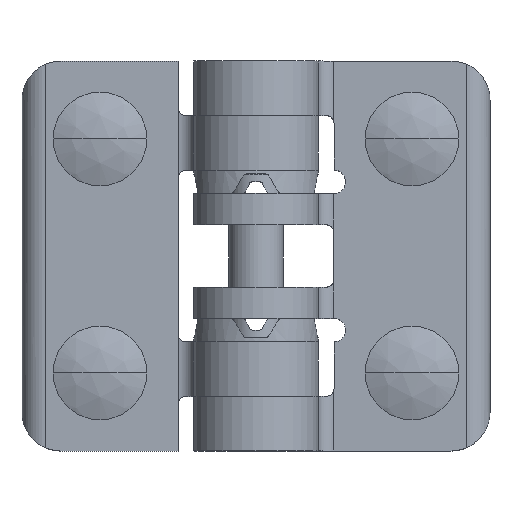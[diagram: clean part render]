
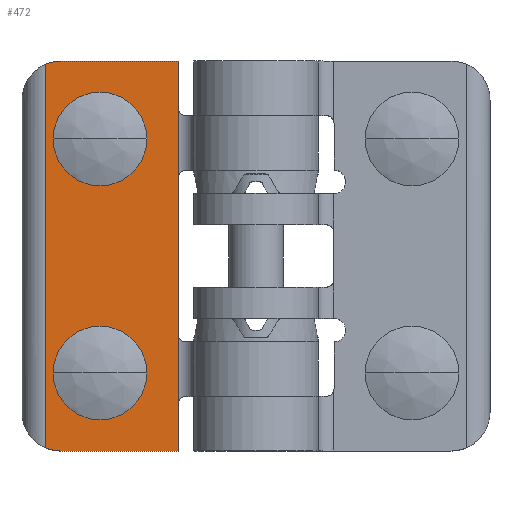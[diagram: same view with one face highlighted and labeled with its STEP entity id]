
A CAD part, top view. The second image highlights one B-rep face of the part: STEP entity #472.
In plain terms, the highlighted planar face has unit normal (0, 0, 1).
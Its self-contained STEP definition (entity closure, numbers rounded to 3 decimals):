
#472=ADVANCED_FACE('',(#787,#788,#789),#790,.T.);
#787=FACE_BOUND('',#1429,.T.);
#788=FACE_OUTER_BOUND('',#1430,.T.);
#789=FACE_BOUND('',#1431,.T.);
#790=PLANE('',#1432);
#1429=EDGE_LOOP('',(#2135,#2136));
#1430=EDGE_LOOP('',(#2137,#2138,#2139,#2140,#2141,#2142,#2143,#2144,#2145,#2146,#2147,#2148,#2149,#2150));
#1431=EDGE_LOOP('',(#2151,#2152));
#1432=AXIS2_PLACEMENT_3D('',#2153,#2154,#2155);
#2135=ORIENTED_EDGE('',*,*,#4576,.T.);
#2136=ORIENTED_EDGE('',*,*,#4545,.T.);
#2137=ORIENTED_EDGE('',*,*,#4577,.T.);
#2138=ORIENTED_EDGE('',*,*,#4578,.T.);
#2139=ORIENTED_EDGE('',*,*,#4579,.T.);
#2140=ORIENTED_EDGE('',*,*,#4580,.T.);
#2141=ORIENTED_EDGE('',*,*,#4581,.T.);
#2142=ORIENTED_EDGE('',*,*,#4582,.T.);
#2143=ORIENTED_EDGE('',*,*,#4583,.T.);
#2144=ORIENTED_EDGE('',*,*,#4584,.T.);
#2145=ORIENTED_EDGE('',*,*,#4585,.T.);
#2146=ORIENTED_EDGE('',*,*,#4586,.T.);
#2147=ORIENTED_EDGE('',*,*,#4587,.F.);
#2148=ORIENTED_EDGE('',*,*,#4588,.F.);
#2149=ORIENTED_EDGE('',*,*,#4589,.F.);
#2150=ORIENTED_EDGE('',*,*,#4590,.T.);
#2151=ORIENTED_EDGE('',*,*,#4575,.T.);
#2152=ORIENTED_EDGE('',*,*,#4553,.T.);
#2153=CARTESIAN_POINT('',(-9.95,0.,-1.0));
#2154=DIRECTION('',(0.,0.,1.0));
#2155=DIRECTION('',(1.0,0.,0.));
#4545=EDGE_CURVE('',#5351,#5348,#5352,.T.);
#4553=EDGE_CURVE('',#5367,#5364,#5368,.T.);
#4575=EDGE_CURVE('',#5364,#5367,#5403,.T.);
#4576=EDGE_CURVE('',#5348,#5351,#5404,.T.);
#4577=EDGE_CURVE('',#5405,#5406,#5407,.T.);
#4578=EDGE_CURVE('',#5406,#5408,#5409,.T.);
#4579=EDGE_CURVE('',#5408,#5410,#5411,.T.);
#4580=EDGE_CURVE('',#5410,#5412,#5413,.T.);
#4581=EDGE_CURVE('',#5412,#5414,#5415,.T.);
#4582=EDGE_CURVE('',#5414,#5416,#5417,.T.);
#4583=EDGE_CURVE('',#5416,#5418,#5419,.T.);
#4584=EDGE_CURVE('',#5418,#5420,#5421,.T.);
#4585=EDGE_CURVE('',#5420,#5422,#5423,.T.);
#4586=EDGE_CURVE('',#5422,#5424,#5425,.T.);
#4587=EDGE_CURVE('',#5426,#5424,#5427,.T.);
#4588=EDGE_CURVE('',#5428,#5426,#5429,.T.);
#4589=EDGE_CURVE('',#5430,#5428,#5431,.T.);
#4590=EDGE_CURVE('',#5430,#5405,#5432,.T.);
#5348=VERTEX_POINT('',#6668);
#5351=VERTEX_POINT('',#6672);
#5352=CIRCLE('',#6673,4.9);
#5364=VERTEX_POINT('',#6688);
#5367=VERTEX_POINT('',#6692);
#5368=CIRCLE('',#6693,4.9);
#5403=CIRCLE('',#6735,4.9);
#5404=CIRCLE('',#6736,4.9);
#5405=VERTEX_POINT('',#6737);
#5406=VERTEX_POINT('',#6738);
#5407=LINE('',#6739,#6740);
#5408=VERTEX_POINT('',#6741);
#5409=CIRCLE('',#6742,1.0);
#5410=VERTEX_POINT('',#6743);
#5411=LINE('',#6744,#6745);
#5412=VERTEX_POINT('',#6746);
#5413=CIRCLE('',#6747,1.0);
#5414=VERTEX_POINT('',#6748);
#5415=LINE('',#6749,#6750);
#5416=VERTEX_POINT('',#6751);
#5417=CIRCLE('',#6752,1.0);
#5418=VERTEX_POINT('',#6753);
#5419=LINE('',#6754,#6755);
#5420=VERTEX_POINT('',#6756);
#5421=CIRCLE('',#6757,1.0);
#5422=VERTEX_POINT('',#6758);
#5423=LINE('',#6759,#6760);
#5424=VERTEX_POINT('',#6761);
#5425=LINE('',#6762,#6763);
#5426=VERTEX_POINT('',#6764);
#5427=CIRCLE('',#6765,5.0);
#5428=VERTEX_POINT('',#6766);
#5429=LINE('',#6767,#6768);
#5430=VERTEX_POINT('',#6769);
#5431=CIRCLE('',#6770,5.0);
#5432=LINE('',#6771,#6772);
#6668=CARTESIAN_POINT('',(-15.1,10.0,-1.0));
#6672=CARTESIAN_POINT('',(-24.9,10.0,-1.));
#6673=AXIS2_PLACEMENT_3D('',#9237,#9238,#9239);
#6688=CARTESIAN_POINT('',(-15.1,40.0,-1.0));
#6692=CARTESIAN_POINT('',(-24.9,40.0,-1.));
#6693=AXIS2_PLACEMENT_3D('',#9253,#9254,#9255);
#6735=AXIS2_PLACEMENT_3D('',#9305,#9306,#9307);
#6736=AXIS2_PLACEMENT_3D('',#9308,#9309,#9310);
#6737=CARTESIAN_POINT('',(-10.0,0.,-1.0));
#6738=CARTESIAN_POINT('',(-10.0,6.0,-1.0));
#6739=CARTESIAN_POINT('',(-10.0,0.,-1.0));
#6740=VECTOR('',#9311,1.0);
#6741=CARTESIAN_POINT('',(-9.95,6.313,-1.0));
#6742=AXIS2_PLACEMENT_3D('',#9312,#9313,#9314);
#6743=CARTESIAN_POINT('',(-9.95,14.687,-1.));
#6744=CARTESIAN_POINT('',(-9.95,0.,-1.0));
#6745=VECTOR('',#9315,1.0);
#6746=CARTESIAN_POINT('',(-10.,15.0,-1.));
#6747=AXIS2_PLACEMENT_3D('',#9316,#9317,#9318);
#6748=CARTESIAN_POINT('',(-10.,35.0,-1.));
#6749=CARTESIAN_POINT('',(-10.,12.5,-1.));
#6750=VECTOR('',#9319,1.0);
#6751=CARTESIAN_POINT('',(-9.95,35.313,-1.));
#6752=AXIS2_PLACEMENT_3D('',#9320,#9321,#9322);
#6753=CARTESIAN_POINT('',(-9.95,43.687,-1.));
#6754=CARTESIAN_POINT('',(-9.95,0.,-1.0));
#6755=VECTOR('',#9323,1.0);
#6756=CARTESIAN_POINT('',(-10.0,44.0,-1.));
#6757=AXIS2_PLACEMENT_3D('',#9324,#9325,#9326);
#6758=CARTESIAN_POINT('',(-10.0,50.0,-1.));
#6759=CARTESIAN_POINT('',(-10.0,22.0,-1.));
#6760=VECTOR('',#9327,1.0);
#6761=CARTESIAN_POINT('',(-25.0,50.0,-1.));
#6762=CARTESIAN_POINT('',(-27.0,50.0,-1.));
#6763=VECTOR('',#9328,1.0);
#6764=CARTESIAN_POINT('',(-27.0,49.583,-1.));
#6765=AXIS2_PLACEMENT_3D('',#9329,#9330,#9331);
#6766=CARTESIAN_POINT('',(-27.0,0.417,-1.0));
#6767=CARTESIAN_POINT('',(-27.0,0.,-1.0));
#6768=VECTOR('',#9332,1.0);
#6769=CARTESIAN_POINT('',(-25.0,0.,-1.));
#6770=AXIS2_PLACEMENT_3D('',#9333,#9334,#9335);
#6771=CARTESIAN_POINT('',(-27.0,0.,-1.0));
#6772=VECTOR('',#9336,1.0);
#9237=CARTESIAN_POINT('',(-20.0,10.0,-1.0));
#9238=DIRECTION('',(0.,0.,-1.0));
#9239=DIRECTION('',(1.0,0.,0.));
#9253=CARTESIAN_POINT('',(-20.0,40.0,-1.0));
#9254=DIRECTION('',(0.,0.,-1.0));
#9255=DIRECTION('',(1.0,0.,0.));
#9305=CARTESIAN_POINT('',(-20.0,40.0,-1.0));
#9306=DIRECTION('',(0.,0.,-1.0));
#9307=DIRECTION('',(1.0,0.,0.));
#9308=CARTESIAN_POINT('',(-20.0,10.0,-1.0));
#9309=DIRECTION('',(0.,0.,-1.0));
#9310=DIRECTION('',(1.0,0.,0.));
#9311=DIRECTION('',(0.,1.0,0.));
#9312=CARTESIAN_POINT('',(-9.0,6.0,-1.0));
#9313=DIRECTION('',(0.,0.,-1.0));
#9314=DIRECTION('',(1.0,0.,0.));
#9315=DIRECTION('',(0.0,1.0,0.));
#9316=CARTESIAN_POINT('',(-9.,15.0,-1.0));
#9317=DIRECTION('',(0.,0.,-1.0));
#9318=DIRECTION('',(1.0,0.,0.));
#9319=DIRECTION('',(0.,1.0,0.));
#9320=CARTESIAN_POINT('',(-9.,35.0,-1.0));
#9321=DIRECTION('',(0.,0.,-1.0));
#9322=DIRECTION('',(1.0,0.,0.));
#9323=DIRECTION('',(0.0,1.0,0.));
#9324=CARTESIAN_POINT('',(-9.0,44.0,-1.0));
#9325=DIRECTION('',(0.,0.,-1.0));
#9326=DIRECTION('',(1.0,0.,0.));
#9327=DIRECTION('',(0.0,1.0,0.));
#9328=DIRECTION('',(-1.0,0.,0.));
#9329=CARTESIAN_POINT('',(-25.0,45.0,-1.0));
#9330=DIRECTION('',(0.,0.,-1.0));
#9331=DIRECTION('',(1.0,0.,0.));
#9332=DIRECTION('',(0.0,1.0,0.));
#9333=CARTESIAN_POINT('',(-25.0,5.,-1.0));
#9334=DIRECTION('',(0.,0.,-1.0));
#9335=DIRECTION('',(1.0,0.,0.));
#9336=DIRECTION('',(1.0,0.,0.));
